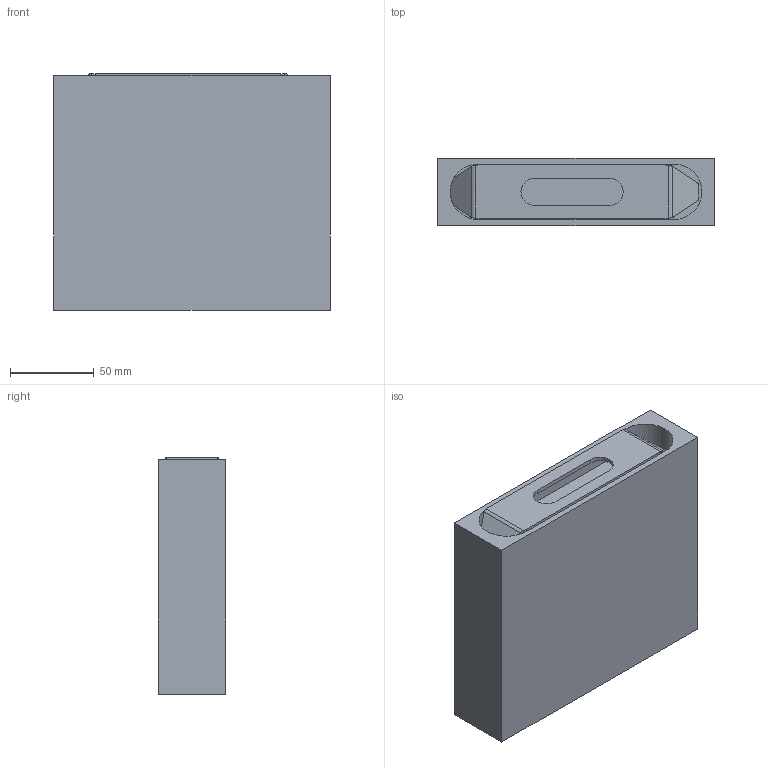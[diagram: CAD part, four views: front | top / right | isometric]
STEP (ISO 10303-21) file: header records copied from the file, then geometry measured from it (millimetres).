
FILE_DESCRIPTION (( 'STEP AP214' ), '1' );
FILE_NAME ('3D_FIX_WALL_LED.STEP', '2018-03-12T16:37:59', ( 'Utente' ), ( '' ), 'SwSTEP 2.0', 'SolidWorks 2016', '' );
FILE_SCHEMA (( 'AUTOMOTIVE_DESIGN' ));
Length unit declared in the file: millimetre
Products named in the file (3): 010FEF000500_diffusore FIX ledMARTIMM-1^3D_FIX_WALL_LED; Group1^3D_FIX_WALL_LED; 3D_FIX_WALL_LED
Assembly tree (2 placements, depth 2):
  3D_FIX_WALL_LED
    Group1^3D_FIX_WALL_LED
    010FEF000500_diffusore FIX ledMARTIMM-1^3D_FIX_WALL_LED
Bounding box: 165 x 40 x 141.03 mm (x, y, z)
Volume: 776812.9 mm3; surface area: 109849.3 mm2
Topology: 3 solids, 3 shells, 77 faces, 188 edges, 120 vertices
Faces by surface type: cylinder 36, plane 35, bspline 4, cone 2
Entity records: 2497 total; most frequent: CARTESIAN_POINT 530, DIRECTION 404, ORIENTED_EDGE 376, EDGE_CURVE 188, AXIS2_PLACEMENT_3D 146, VERTEX_POINT 120, VECTOR 112, LINE 112
